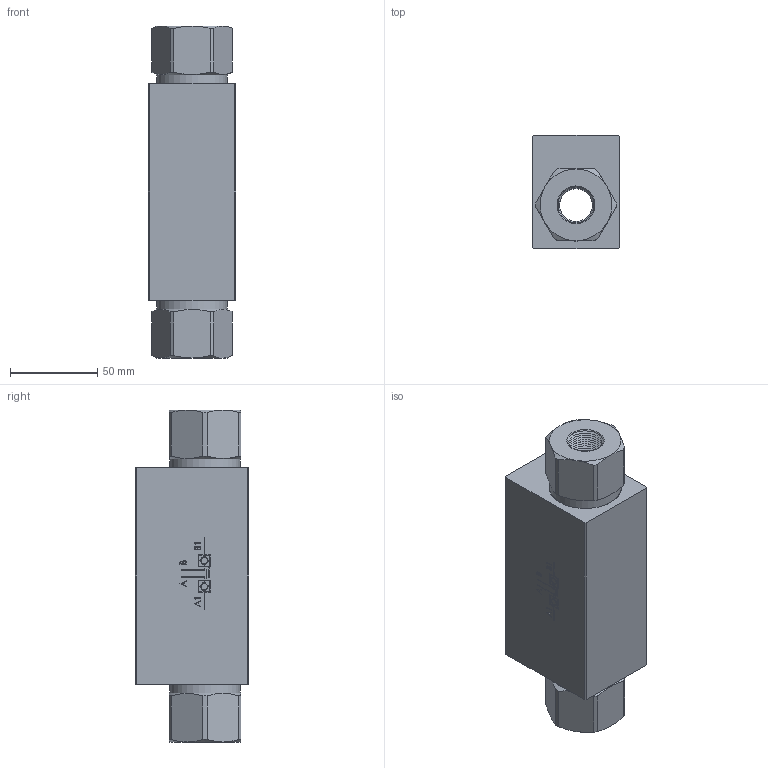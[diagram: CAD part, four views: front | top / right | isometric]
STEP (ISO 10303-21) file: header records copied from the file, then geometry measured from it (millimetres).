
FILE_DESCRIPTION (( 'STEP AP214' ), '1' );
FILE_NAME ('2257-8-12.STEP', '2015-04-11T07:11:03', ( 'cperuzzotti' ), ( 'Hewlett-Packard Company' ), 'SwSTEP 2.0', 'SolidWorks 2014', '' );
FILE_SCHEMA (( 'AUTOMOTIVE_DESIGN' ));
Length unit declared in the file: millimetre
Products named in the file (1): 2257-8-12
Bounding box: 50 x 65 x 190 mm (x, y, z)
Surface area: 47487.7 mm2 (no closed solid volume)
Topology: 0 solids, 44 shells, 289 faces, 1140 edges, 813 vertices
Faces by surface type: plane 158, cone 61, bspline 40, cylinder 30
Full cylindrical faces by diameter (mm): 0.264 x1, 3.696 x2, 27 x2, 40.5 x2, 41.5 x2
Entity records: 18273 total; most frequent: CARTESIAN_POINT 6469, DIRECTION 1551, ORIENTED_EDGE 1549, EDGE_CURVE 1076, VERTEX_POINT 807, LINE 689, VECTOR 689, AXIS2_PLACEMENT_3D 431
